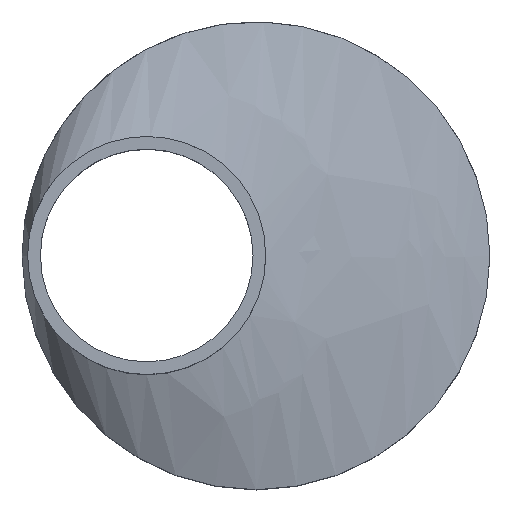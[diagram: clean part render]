
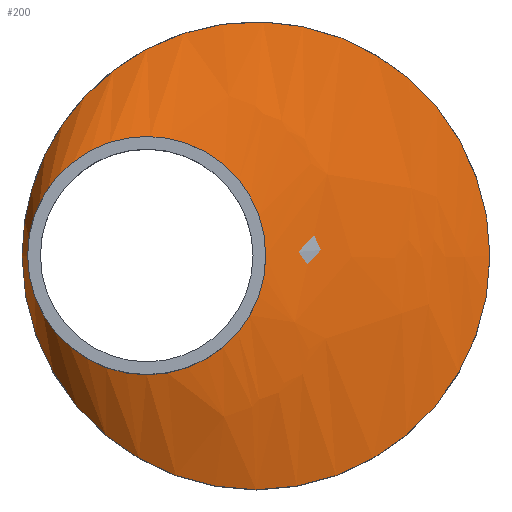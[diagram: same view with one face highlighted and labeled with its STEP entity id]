
A CAD part, top view. The second image highlights one B-rep face of the part: STEP entity #200.
In plain terms, the highlighted free-form (B-spline) face has degree [1, 2] with [2, 9] control points.
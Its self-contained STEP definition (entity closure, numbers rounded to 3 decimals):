
#15=B_SPLINE_CURVE_WITH_KNOTS($,1,(#381,#382),.UNSPECIFIED.,.F.,.F.,(2,
2),(-0.558,0.),.UNSPECIFIED.);
#17=(
BOUNDED_SURFACE()
B_SPLINE_SURFACE(1,2,((#359,#360,#361,#362,#363,#364,#365,#366,#367),(#368,
#369,#370,#371,#372,#373,#374,#375,#376)),.UNSPECIFIED.,.F.,.T.,.F.)
B_SPLINE_SURFACE_WITH_KNOTS((2,2),(3,2,2,2,3),(-3.171,0.805),
(-3.142,-1.571,0.,1.571,3.142),
 .UNSPECIFIED.)
GEOMETRIC_REPRESENTATION_ITEM()
RATIONAL_B_SPLINE_SURFACE(((1.,0.707,1.,0.707,1.,
0.707,1.,0.707,1.),(1.,0.707,1.,0.707,
1.,0.707,1.,0.707,1.)))
REPRESENTATION_ITEM($)
SURFACE()
);
#47=FACE_OUTER_BOUND($,#67,.T.);
#67=EDGE_LOOP($,(#157,#158,#159,#160,#161,#162));
#83=CIRCLE($,#221,55.);
#84=CIRCLE($,#222,55.);
#91=CIRCLE($,#231,28.);
#92=CIRCLE($,#232,28.);
#101=VERTEX_POINT($,#321);
#102=VERTEX_POINT($,#322);
#109=VERTEX_POINT($,#377);
#110=VERTEX_POINT($,#378);
#119=EDGE_CURVE($,#101,#102,#83,.T.);
#120=EDGE_CURVE($,#102,#101,#84,.T.);
#128=EDGE_CURVE($,#109,#110,#91,.T.);
#129=EDGE_CURVE($,#110,#109,#92,.T.);
#130=EDGE_CURVE($,#110,#102,#15,.T.);
#157=ORIENTED_EDGE($,*,*,#128,.F.);
#158=ORIENTED_EDGE($,*,*,#129,.F.);
#159=ORIENTED_EDGE($,*,*,#130,.T.);
#160=ORIENTED_EDGE($,*,*,#119,.F.);
#161=ORIENTED_EDGE($,*,*,#120,.F.);
#162=ORIENTED_EDGE($,*,*,#130,.F.);
#200=ADVANCED_FACE($,(#47),#17,.F.);
#221=AXIS2_PLACEMENT_3D($,#323,#266,#267);
#222=AXIS2_PLACEMENT_3D($,#324,#268,#269);
#231=AXIS2_PLACEMENT_3D($,#379,#286,#287);
#232=AXIS2_PLACEMENT_3D($,#380,#288,#289);
#266=DIRECTION('center_axis',(0.,0.,-1.));
#267=DIRECTION('ref_axis',(-1.,0.,0.));
#268=DIRECTION('center_axis',(0.,0.,-1.));
#269=DIRECTION('ref_axis',(-1.,0.,0.));
#286=DIRECTION('center_axis',(0.,0.,1.));
#287=DIRECTION('ref_axis',(-1.,0.,0.));
#288=DIRECTION('center_axis',(0.,0.,1.));
#289=DIRECTION('ref_axis',(-1.,0.,0.));
#321=CARTESIAN_POINT('',(55.,0.,37.));
#322=CARTESIAN_POINT('',(-40.482,37.232,37.));
#323=CARTESIAN_POINT('Origin',(0.,0.,37.));
#324=CARTESIAN_POINT('Origin',(0.,0.,37.));
#359=CARTESIAN_POINT('Ctrl Pts',(-7.384,141.048,-8.44));
#360=CARTESIAN_POINT('Ctrl Pts',(-69.768,141.048,-53.88));
#361=CARTESIAN_POINT('Ctrl Pts',(-69.768,0.,
-53.88));
#362=CARTESIAN_POINT('Ctrl Pts',(-69.768,-141.048,-53.88));
#363=CARTESIAN_POINT('Ctrl Pts',(-7.384,-141.048,-8.44));
#364=CARTESIAN_POINT('Ctrl Pts',(55.,-141.048,37.));
#365=CARTESIAN_POINT('Ctrl Pts',(55.,0.,37.));
#366=CARTESIAN_POINT('Ctrl Pts',(55.,141.048,37.));
#367=CARTESIAN_POINT('Ctrl Pts',(-7.384,141.048,-8.44));
#368=CARTESIAN_POINT('Ctrl Pts',(-48.879,10.892,48.529));
#369=CARTESIAN_POINT('Ctrl Pts',(-53.697,10.892,45.02));
#370=CARTESIAN_POINT('Ctrl Pts',(-53.697,0.,45.02));
#371=CARTESIAN_POINT('Ctrl Pts',(-53.697,-10.892,45.02));
#372=CARTESIAN_POINT('Ctrl Pts',(-48.879,-10.892,48.529));
#373=CARTESIAN_POINT('Ctrl Pts',(-44.062,-10.892,52.038));
#374=CARTESIAN_POINT('Ctrl Pts',(-44.062,0.,52.038));
#375=CARTESIAN_POINT('Ctrl Pts',(-44.062,10.892,52.038));
#376=CARTESIAN_POINT('Ctrl Pts',(-48.879,10.892,48.529));
#377=CARTESIAN_POINT('',(2.3,0.,45.));
#378=CARTESIAN_POINT('',(-46.309,18.954,45.));
#379=CARTESIAN_POINT('Origin',(-25.7,0.,45.));
#380=CARTESIAN_POINT('Origin',(-25.7,0.,45.));
#381=CARTESIAN_POINT('Ctrl Pts',(-46.309,18.954,45.));
#382=CARTESIAN_POINT('Ctrl Pts',(-40.482,37.232,37.));
